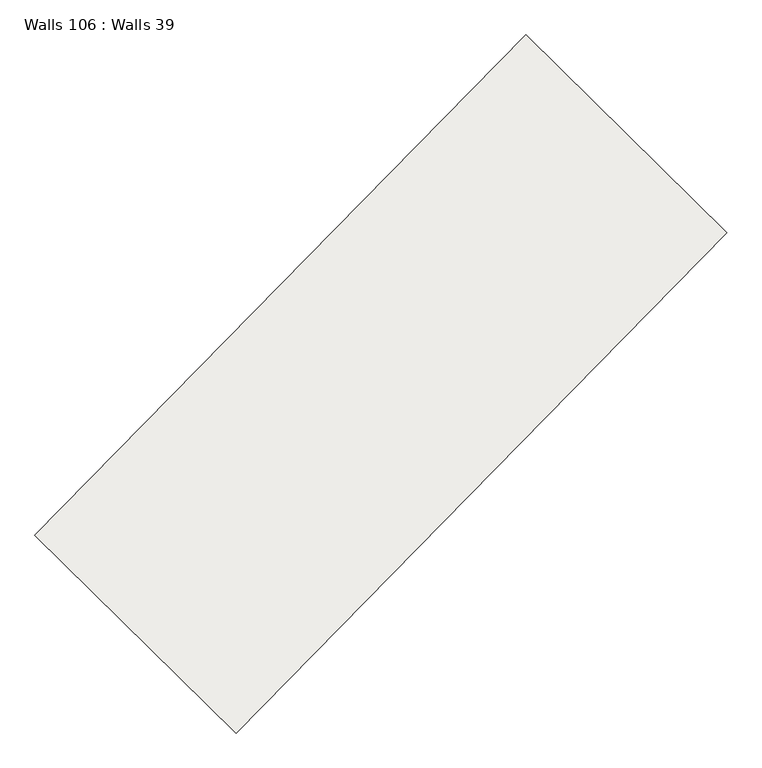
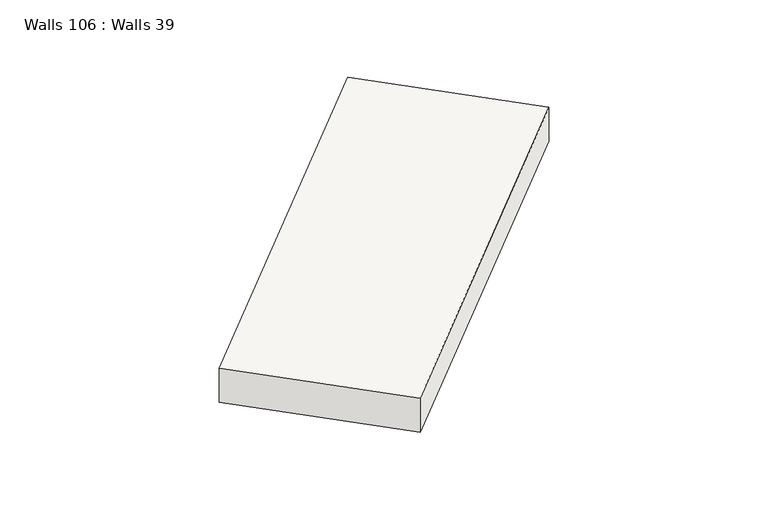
"""IFC4 building model written with IfcOpenShell, lengths in millimetres: slab geometry, Walls 106 : Walls 39."""

from ifc_helpers import new_model, si_unit, frame, origin, place, context, project, spatial, polyline, outline, extrude, source, transform, mapped, element, save


def walls_106_walls_39_1fc04277(model_context):
    return source(origin(), model_context, "Body", "SweptSolid", [
        extrude(outline(polyline([(-350.0, 0.0), (350.0, 0.0), (260.0, -8700.0000009), (-440.0, -8700.0000009), (-350.0, 0.0)])), frame((-146268.0801742, -308252.2839597, 636320.0), z_axis=(-0.7137361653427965, 0.7004146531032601, 0.0), x_axis=(0.0, 0.0, 1.0)), (0.0, 0.0, 1.0), 3499.999995),
    ])


if __name__ == "__main__":
    model = new_model("IFC4")
    model_context = context("Model", 3, world=origin())
    ifc_project = project(units=[si_unit("LENGTHUNIT", "METRE", prefix="MILLI")], contexts=[model_context])
    site = spatial("IfcSite", under=ifc_project)
    building = spatial("IfcBuilding", under=site)
    placement = place(None, origin())
    walls_106_walls_39_shape = walls_106_walls_39_1fc04277(model_context)
    element("IfcSlab", 1, ObjectType="Walls 106 : Walls 39", at=placement, inside=building, context=model_context, shape_type="MappedRepresentation", body=[
        mapped(walls_106_walls_39_shape, transform((0.0, 0.0, 0.0), x_axis=(1.0, 0.0, 0.0), y_axis=(0.0, 1.0, 0.0), z_axis=(0.0, 0.0, 1.0))),
    ])
    save(model, "model.ifc")
